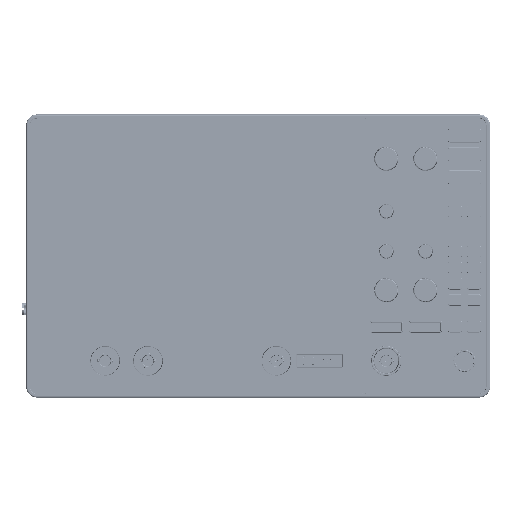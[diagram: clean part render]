
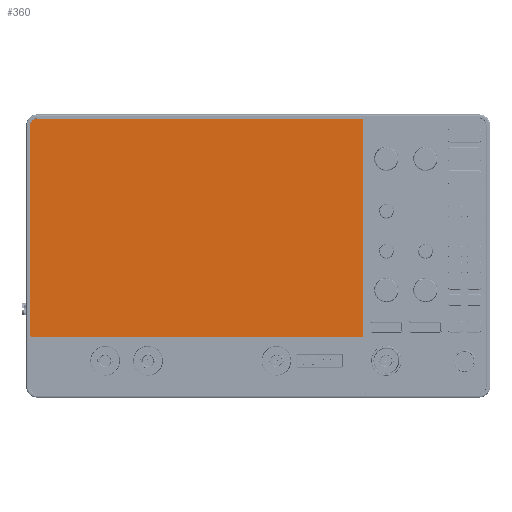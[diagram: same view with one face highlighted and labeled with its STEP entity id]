
A CAD part, front view. The second image highlights one B-rep face of the part: STEP entity #360.
In plain terms, the highlighted planar face has unit normal (0, -1, 0) as drawn and (0, 0, 1) by its records, which use the part's own axes.
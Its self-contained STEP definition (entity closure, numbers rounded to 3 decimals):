
#201=CARTESIAN_POINT('',(-118.86,75.98,0.));
#202=DIRECTION('',(0.,0.,1.));
#203=DIRECTION('',(0.,1.,0.));
#204=AXIS2_PLACEMENT_3D('',#201,#202,#203);
#206=DIRECTION('',(-1.,0.,0.));
#207=VECTOR('',#206,241.65);
#208=CARTESIAN_POINT('',(122.79,80.98,0.));
#209=LINE('',#208,#207);
#210=CARTESIAN_POINT('',(122.79,80.48,0.));
#211=DIRECTION('',(0.,0.,1.));
#212=DIRECTION('',(1.,0.,0.));
#213=AXIS2_PLACEMENT_3D('',#210,#211,#212);
#215=DIRECTION('',(0.,1.,0.));
#216=VECTOR('',#215,160.56);
#217=CARTESIAN_POINT('',(123.29,-80.08,0.));
#218=LINE('',#217,#216);
#219=CARTESIAN_POINT('',(122.79,-80.08,0.));
#220=DIRECTION('',(0.,0.,1.));
#221=DIRECTION('',(0.,-1.,0.));
#222=AXIS2_PLACEMENT_3D('',#219,#220,#221);
#224=DIRECTION('',(1.,0.,0.));
#225=VECTOR('',#224,246.15);
#226=CARTESIAN_POINT('',(-123.36,-80.58,0.));
#227=LINE('',#226,#225);
#228=CARTESIAN_POINT('',(-123.36,-80.08,0.));
#229=DIRECTION('',(0.,0.,1.));
#230=DIRECTION('',(-1.,0.,0.));
#231=AXIS2_PLACEMENT_3D('',#228,#229,#230);
#233=DIRECTION('',(0.,-1.,0.));
#234=VECTOR('',#233,156.06);
#235=CARTESIAN_POINT('',(-123.86,75.98,0.));
#236=LINE('',#235,#234);
#309=CARTESIAN_POINT('',(-118.86,80.98,0.));
#310=VERTEX_POINT('',#309);
#311=CARTESIAN_POINT('',(-123.86,75.98,0.));
#312=VERTEX_POINT('',#311);
#317=CARTESIAN_POINT('',(123.29,80.48,0.));
#318=VERTEX_POINT('',#317);
#319=CARTESIAN_POINT('',(122.79,80.98,0.));
#320=VERTEX_POINT('',#319);
#325=CARTESIAN_POINT('',(-123.86,-80.08,0.));
#326=VERTEX_POINT('',#325);
#327=CARTESIAN_POINT('',(-123.36,-80.58,0.));
#328=VERTEX_POINT('',#327);
#333=CARTESIAN_POINT('',(122.79,-80.58,0.));
#334=VERTEX_POINT('',#333);
#335=CARTESIAN_POINT('',(123.29,-80.08,0.));
#336=VERTEX_POINT('',#335);
#337=CARTESIAN_POINT('',(0.,0.,0.));
#338=DIRECTION('',(0.,0.,1.));
#339=DIRECTION('',(1.,0.,0.));
#340=AXIS2_PLACEMENT_3D('',#337,#338,#339);
#341=PLANE('',#340);
#343=ORIENTED_EDGE('',*,*,#342,.F.);
#345=ORIENTED_EDGE('',*,*,#344,.F.);
#347=ORIENTED_EDGE('',*,*,#346,.F.);
#349=ORIENTED_EDGE('',*,*,#348,.F.);
#351=ORIENTED_EDGE('',*,*,#350,.F.);
#353=ORIENTED_EDGE('',*,*,#352,.F.);
#355=ORIENTED_EDGE('',*,*,#354,.F.);
#357=ORIENTED_EDGE('',*,*,#356,.F.);
#358=EDGE_LOOP('',(#343,#345,#347,#349,#351,#353,#355,#357));
#359=FACE_OUTER_BOUND('',#358,.F.);
#360=ADVANCED_FACE('',(#359),#341,.T.);
#205=CIRCLE('',#204,5.);
#214=CIRCLE('',#213,0.5);
#223=CIRCLE('',#222,0.5);
#232=CIRCLE('',#231,0.5);
#342=EDGE_CURVE('',#310,#312,#205,.T.);
#344=EDGE_CURVE('',#320,#310,#209,.T.);
#346=EDGE_CURVE('',#318,#320,#214,.T.);
#348=EDGE_CURVE('',#336,#318,#218,.T.);
#350=EDGE_CURVE('',#334,#336,#223,.T.);
#352=EDGE_CURVE('',#328,#334,#227,.T.);
#354=EDGE_CURVE('',#326,#328,#232,.T.);
#356=EDGE_CURVE('',#312,#326,#236,.T.);
